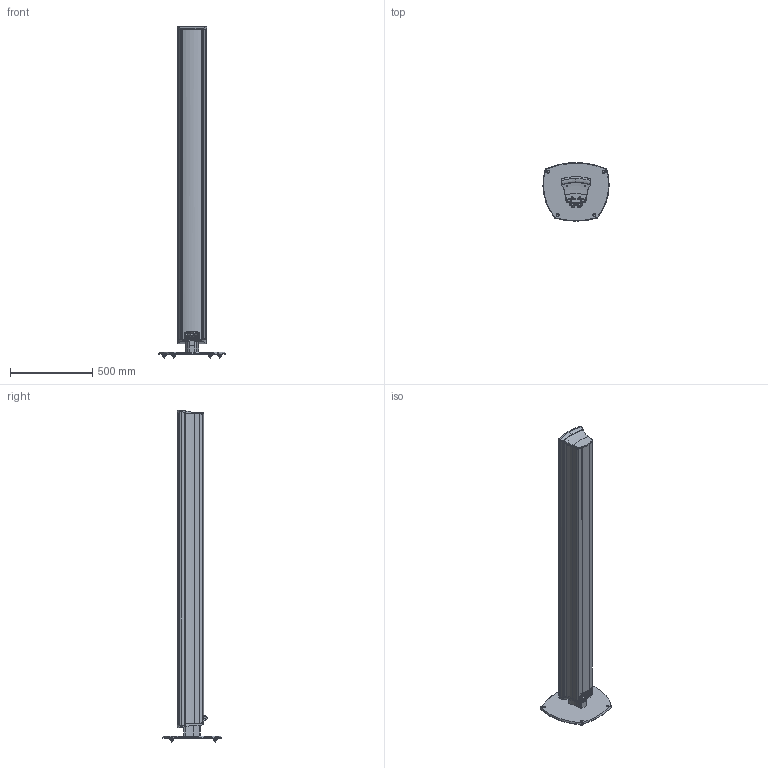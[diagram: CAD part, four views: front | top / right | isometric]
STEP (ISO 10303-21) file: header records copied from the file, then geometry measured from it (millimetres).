
FILE_DESCRIPTION (( 'STEP AP203' ), '1' );
FILE_NAME ('977501_L75_Freestanding.STEP', '2024-09-13T12:27:50', ( '' ), ( '' ), 'SwSTEP 2.0', 'SolidWorks 2023', '' );
FILE_SCHEMA (( 'CONFIG_CONTROL_DESIGN' ));
Length unit declared in the file: inch
Products named in the file (14): Base Connector; Front Cap 6-26-08_Top; terminal block (comp); top rear cap_top rear cap; speakerterminal 1; Foot; -75 Side Rail; 977501_L75_Freestanding; -75 Screen; Bottom Rear Cap; base; Rear Extrusion; Terminal Holder1; Wave Knob (test 3)
Assembly tree (20 placements, depth 3):
  977501_L75_Freestanding
    Rear Extrusion
    top rear cap_top rear cap
    Front Cap 6-26-08_Top  x2
    Bottom Rear Cap
    Base Connector
    base
    terminal block (comp)
      Terminal Holder1
      speakerterminal 1  x2
      Wave Knob (test 3)  x2
    Foot  x4
    -75 Side Rail  x2
    -75 Screen
Bounding box: 402.12 x 354.33 x 2017.36 mm (x, y, z)
Volume: 5982120.4 mm3; surface area: 3630612.3 mm2
Topology: 20 solids, 20 shells, 1232 faces, 3310 edges, 2174 vertices
Faces by surface type: cylinder 600, plane 446, bspline 137, cone 47, torus 2
Full cylindrical faces by diameter (mm): 2.705 x2, 3.175 x8, 3.454 x4, 3.797 x2, 4.039 x8, 4.496 x2, 5.105 x2, 5.791 x2, 6.35 x4, 6.528 x10, 6.858 x4, 8.001 x4, 8.89 x4, 9.398 x2, 12.7 x10, 17.462 x3, 17.463 x1, 19.05 x4, 25.4 x4
Entity records: 43456 total; most frequent: CARTESIAN_POINT 17236, ORIENTED_EDGE 5438, DIRECTION 4671, EDGE_CURVE 2719, VERTEX_POINT 1826, AXIS2_PLACEMENT_3D 1699, VECTOR 1273, LINE 1273
